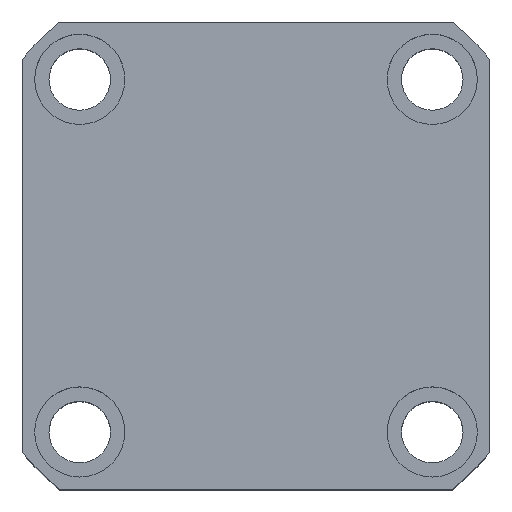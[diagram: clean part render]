
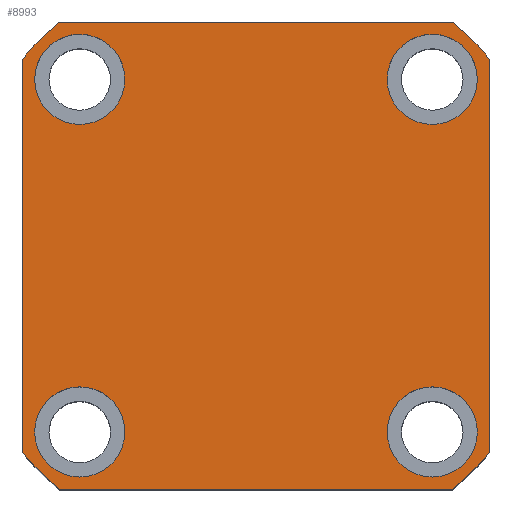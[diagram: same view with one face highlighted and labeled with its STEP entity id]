
A CAD part, top view. The second image highlights one B-rep face of the part: STEP entity #8993.
In plain terms, the highlighted planar face has unit normal (0, 0, 1) as drawn and (0, 0, -1) by its records, which use the part's own axes.
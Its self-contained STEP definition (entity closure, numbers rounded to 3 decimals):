
#125 = CARTESIAN_POINT ( 'NONE',  ( 43., -43., 0. ) ) ;
#271 = CIRCLE ( 'NONE', #10990, 11. ) ;
#309 = EDGE_CURVE ( 'NONE', #6062, #2373, #8260, .T. ) ;
#355 = DIRECTION ( 'NONE',  ( 0., 0., -1. ) ) ;
#488 = EDGE_LOOP ( 'NONE', ( #607, #6405 ) ) ;
#490 = CARTESIAN_POINT ( 'NONE',  ( 54., 43., 0. ) ) ;
#503 = CARTESIAN_POINT ( 'NONE',  ( -57., 57., 0. ) ) ;
#607 = ORIENTED_EDGE ( 'NONE', *, *, #5824, .F. ) ;
#655 = VERTEX_POINT ( 'NONE', #14805 ) ;
#695 = CARTESIAN_POINT ( 'NONE',  ( 47.971, -57., 0. ) ) ;
#837 = FACE_BOUND ( 'NONE', #3334, .T. ) ;
#936 = LINE ( 'NONE', #5537, #10679 ) ;
#1060 = CARTESIAN_POINT ( 'NONE',  ( 32., -43., 0. ) ) ;
#1159 = CARTESIAN_POINT ( 'NONE',  ( 0., 0., 0. ) ) ;
#1208 = PLANE ( 'NONE',  #9879 ) ;
#1304 = DIRECTION ( 'NONE',  ( -1., 0., 0. ) ) ;
#1364 = CARTESIAN_POINT ( 'NONE',  ( 57., 57., 0. ) ) ;
#1422 = CIRCLE ( 'NONE', #6123, 11. ) ;
#1602 = CARTESIAN_POINT ( 'NONE',  ( -54., 43., 0. ) ) ;
#1733 = CIRCLE ( 'NONE', #7449, 11. ) ;
#1793 = ORIENTED_EDGE ( 'NONE', *, *, #4137, .F. ) ;
#2022 = CARTESIAN_POINT ( 'NONE',  ( -43., -43., 0. ) ) ;
#2051 = CARTESIAN_POINT ( 'NONE',  ( -47.971, -57., 0. ) ) ;
#2245 = ORIENTED_EDGE ( 'NONE', *, *, #14109, .F. ) ;
#2312 = CARTESIAN_POINT ( 'NONE',  ( -43., -43., 0. ) ) ;
#2314 = DIRECTION ( 'NONE',  ( 1., 0., 0. ) ) ;
#2373 = VERTEX_POINT ( 'NONE', #10559 ) ;
#2667 = AXIS2_PLACEMENT_3D ( 'NONE', #2312, #10548, #3500 ) ;
#3009 = EDGE_CURVE ( 'NONE', #10424, #12695, #9134, .T. ) ;
#3191 = DIRECTION ( 'NONE',  ( -1., 0., 0. ) ) ;
#3236 = LINE ( 'NONE', #503, #12256 ) ;
#3267 = CARTESIAN_POINT ( 'NONE',  ( 43., 43., 0. ) ) ;
#3334 = EDGE_LOOP ( 'NONE', ( #12263, #2245 ) ) ;
#3500 = DIRECTION ( 'NONE',  ( -1., 0., 0. ) ) ;
#3556 = DIRECTION ( 'NONE',  ( 0., 0., -1. ) ) ;
#3575 = DIRECTION ( 'NONE',  ( 0., 0., 1. ) ) ;
#3591 = ORIENTED_EDGE ( 'NONE', *, *, #6295, .F. ) ;
#3603 = CARTESIAN_POINT ( 'NONE',  ( 57., -47.971, 0. ) ) ;
#3773 = ORIENTED_EDGE ( 'NONE', *, *, #14509, .F. ) ;
#3885 = DIRECTION ( 'NONE',  ( 0., 0., 1. ) ) ;
#4056 = EDGE_CURVE ( 'NONE', #9778, #9108, #10317, .T. ) ;
#4137 = EDGE_CURVE ( 'NONE', #12768, #5836, #9938, .T. ) ;
#4177 = CARTESIAN_POINT ( 'NONE',  ( -57., -57., 0. ) ) ;
#4342 = VECTOR ( 'NONE', #10760, 1000. ) ;
#4356 = CIRCLE ( 'NONE', #8194, 74.5 ) ;
#4432 = EDGE_LOOP ( 'NONE', ( #1793, #3773 ) ) ;
#4469 = DIRECTION ( 'NONE',  ( -1., 0., 0. ) ) ;
#4491 = AXIS2_PLACEMENT_3D ( 'NONE', #10631, #3575, #11803 ) ;
#4640 = CARTESIAN_POINT ( 'NONE',  ( 57., 47.971, 0. ) ) ;
#4796 = CARTESIAN_POINT ( 'NONE',  ( 0., 0., 0. ) ) ;
#4840 = CARTESIAN_POINT ( 'NONE',  ( -43., 43., 0. ) ) ;
#5047 = FACE_BOUND ( 'NONE', #4432, .T. ) ;
#5260 = VERTEX_POINT ( 'NONE', #12280 ) ;
#5351 = DIRECTION ( 'NONE',  ( 0., 0., -1. ) ) ;
#5448 = EDGE_CURVE ( 'NONE', #9108, #5260, #936, .T. ) ;
#5537 = CARTESIAN_POINT ( 'NONE',  ( -57., 57., 0. ) ) ;
#5824 = EDGE_CURVE ( 'NONE', #8842, #655, #1422, .T. ) ;
#5836 = VERTEX_POINT ( 'NONE', #6191 ) ;
#5983 = DIRECTION ( 'NONE',  ( 1., 0., 0. ) ) ;
#6031 = DIRECTION ( 'NONE',  ( -1., 0., 0. ) ) ;
#6044 = AXIS2_PLACEMENT_3D ( 'NONE', #1159, #9366, #2314 ) ;
#6062 = VERTEX_POINT ( 'NONE', #4640 ) ;
#6116 = ORIENTED_EDGE ( 'NONE', *, *, #6619, .F. ) ;
#6123 = AXIS2_PLACEMENT_3D ( 'NONE', #7369, #355, #8561 ) ;
#6191 = CARTESIAN_POINT ( 'NONE',  ( -32., 43., 0. ) ) ;
#6295 = EDGE_CURVE ( 'NONE', #12119, #12823, #4356, .T. ) ;
#6405 = ORIENTED_EDGE ( 'NONE', *, *, #12805, .F. ) ;
#6414 = ORIENTED_EDGE ( 'NONE', *, *, #5448, .F. ) ;
#6456 = AXIS2_PLACEMENT_3D ( 'NONE', #3267, #11497, #4469 ) ;
#6533 = CARTESIAN_POINT ( 'NONE',  ( 32., 43., 0. ) ) ;
#6534 = CARTESIAN_POINT ( 'NONE',  ( 0., 0., 0. ) ) ;
#6619 = EDGE_CURVE ( 'NONE', #2373, #9778, #3236, .T. ) ;
#7204 = ORIENTED_EDGE ( 'NONE', *, *, #4056, .F. ) ;
#7369 = CARTESIAN_POINT ( 'NONE',  ( 43., -43., 0. ) ) ;
#7449 = AXIS2_PLACEMENT_3D ( 'NONE', #4840, #13091, #6031 ) ;
#7456 = LINE ( 'NONE', #1364, #4342 ) ;
#7506 = EDGE_CURVE ( 'NONE', #12823, #6062, #7456, .T. ) ;
#7604 = AXIS2_PLACEMENT_3D ( 'NONE', #10602, #3556, #11779 ) ;
#7712 = DIRECTION ( 'NONE',  ( 1., 0., 0. ) ) ;
#8194 = AXIS2_PLACEMENT_3D ( 'NONE', #10936, #3885, #12117 ) ;
#8260 = CIRCLE ( 'NONE', #14590, 74.5 ) ;
#8331 = DIRECTION ( 'NONE',  ( 0., 0., -1. ) ) ;
#8387 = CARTESIAN_POINT ( 'NONE',  ( -57., 47.971, 0. ) ) ;
#8439 = ORIENTED_EDGE ( 'NONE', *, *, #3009, .F. ) ;
#8442 = EDGE_CURVE ( 'NONE', #15028, #12119, #12414, .T. ) ;
#8561 = DIRECTION ( 'NONE',  ( -1., 0., 0. ) ) ;
#8842 = VERTEX_POINT ( 'NONE', #1060 ) ;
#8993 = ADVANCED_FACE ( 'NONE', ( #10197, #12997, #837, #5047, #9828 ), #1208, .F. ) ;
#9108 = VERTEX_POINT ( 'NONE', #8387 ) ;
#9134 = CIRCLE ( 'NONE', #2667, 11. ) ;
#9366 = DIRECTION ( 'NONE',  ( 0., 0., 1. ) ) ;
#9574 = ORIENTED_EDGE ( 'NONE', *, *, #7506, .F. ) ;
#9658 = VECTOR ( 'NONE', #12533, 1000. ) ;
#9707 = VERTEX_POINT ( 'NONE', #490 ) ;
#9778 = VERTEX_POINT ( 'NONE', #13452 ) ;
#9828 = FACE_OUTER_BOUND ( 'NONE', #10632, .T. ) ;
#9845 = VERTEX_POINT ( 'NONE', #6533 ) ;
#9879 = AXIS2_PLACEMENT_3D ( 'NONE', #4796, #13048, #5983 ) ;
#9938 = CIRCLE ( 'NONE', #7604, 11. ) ;
#10197 = FACE_BOUND ( 'NONE', #13204, .T. ) ;
#10245 = DIRECTION ( 'NONE',  ( 0., 0., -1. ) ) ;
#10317 = CIRCLE ( 'NONE', #6044, 74.5 ) ;
#10424 = VERTEX_POINT ( 'NONE', #11853 ) ;
#10548 = DIRECTION ( 'NONE',  ( 0., 0., -1. ) ) ;
#10559 = CARTESIAN_POINT ( 'NONE',  ( 47.971, 57., 0. ) ) ;
#10602 = CARTESIAN_POINT ( 'NONE',  ( -43., 43., 0. ) ) ;
#10631 = CARTESIAN_POINT ( 'NONE',  ( 0., 0., 0. ) ) ;
#10632 = EDGE_LOOP ( 'NONE', ( #11709, #9574, #3591, #14033, #12158, #6414, #7204, #6116 ) ) ;
#10679 = VECTOR ( 'NONE', #13804, 1000. ) ;
#10760 = DIRECTION ( 'NONE',  ( 0., 1., 0. ) ) ;
#10900 = AXIS2_PLACEMENT_3D ( 'NONE', #12395, #5351, #13613 ) ;
#10901 = EDGE_CURVE ( 'NONE', #12695, #10424, #11119, .T. ) ;
#10936 = CARTESIAN_POINT ( 'NONE',  ( 0., 0., 0. ) ) ;
#10956 = CARTESIAN_POINT ( 'NONE',  ( -32., -43., 0. ) ) ;
#10990 = AXIS2_PLACEMENT_3D ( 'NONE', #125, #8331, #1304 ) ;
#11119 = CIRCLE ( 'NONE', #12982, 11. ) ;
#11497 = DIRECTION ( 'NONE',  ( 0., 0., -1. ) ) ;
#11709 = ORIENTED_EDGE ( 'NONE', *, *, #309, .F. ) ;
#11739 = EDGE_CURVE ( 'NONE', #5260, #15028, #14113, .T. ) ;
#11779 = DIRECTION ( 'NONE',  ( -1., 0., 0. ) ) ;
#11803 = DIRECTION ( 'NONE',  ( 1., 0., 0. ) ) ;
#11853 = CARTESIAN_POINT ( 'NONE',  ( -54., -43., 0. ) ) ;
#12117 = DIRECTION ( 'NONE',  ( 1., 0., 0. ) ) ;
#12119 = VERTEX_POINT ( 'NONE', #695 ) ;
#12158 = ORIENTED_EDGE ( 'NONE', *, *, #11739, .F. ) ;
#12256 = VECTOR ( 'NONE', #12306, 1000. ) ;
#12263 = ORIENTED_EDGE ( 'NONE', *, *, #13425, .F. ) ;
#12280 = CARTESIAN_POINT ( 'NONE',  ( -57., -47.971, 0. ) ) ;
#12306 = DIRECTION ( 'NONE',  ( -1., 0., 0. ) ) ;
#12395 = CARTESIAN_POINT ( 'NONE',  ( 43., 43., 0. ) ) ;
#12411 = CIRCLE ( 'NONE', #6456, 11. ) ;
#12414 = LINE ( 'NONE', #4177, #9658 ) ;
#12533 = DIRECTION ( 'NONE',  ( 1., 0., 0. ) ) ;
#12695 = VERTEX_POINT ( 'NONE', #10956 ) ;
#12768 = VERTEX_POINT ( 'NONE', #1602 ) ;
#12805 = EDGE_CURVE ( 'NONE', #655, #8842, #271, .T. ) ;
#12823 = VERTEX_POINT ( 'NONE', #3603 ) ;
#12982 = AXIS2_PLACEMENT_3D ( 'NONE', #2022, #10245, #3191 ) ;
#12997 = FACE_BOUND ( 'NONE', #488, .T. ) ;
#13048 = DIRECTION ( 'NONE',  ( 0., 0., 1. ) ) ;
#13091 = DIRECTION ( 'NONE',  ( 0., 0., -1. ) ) ;
#13190 = ORIENTED_EDGE ( 'NONE', *, *, #10901, .F. ) ;
#13204 = EDGE_LOOP ( 'NONE', ( #8439, #13190 ) ) ;
#13351 = CIRCLE ( 'NONE', #10900, 11. ) ;
#13425 = EDGE_CURVE ( 'NONE', #9845, #9707, #12411, .T. ) ;
#13452 = CARTESIAN_POINT ( 'NONE',  ( -47.971, 57., 0. ) ) ;
#13613 = DIRECTION ( 'NONE',  ( -1., 0., 0. ) ) ;
#13804 = DIRECTION ( 'NONE',  ( 0., -1., 0. ) ) ;
#14033 = ORIENTED_EDGE ( 'NONE', *, *, #8442, .F. ) ;
#14109 = EDGE_CURVE ( 'NONE', #9707, #9845, #13351, .T. ) ;
#14113 = CIRCLE ( 'NONE', #4491, 74.5 ) ;
#14509 = EDGE_CURVE ( 'NONE', #5836, #12768, #1733, .T. ) ;
#14590 = AXIS2_PLACEMENT_3D ( 'NONE', #6534, #14787, #7712 ) ;
#14787 = DIRECTION ( 'NONE',  ( 0., 0., 1. ) ) ;
#14805 = CARTESIAN_POINT ( 'NONE',  ( 54., -43., 0. ) ) ;
#15028 = VERTEX_POINT ( 'NONE', #2051 ) ;
